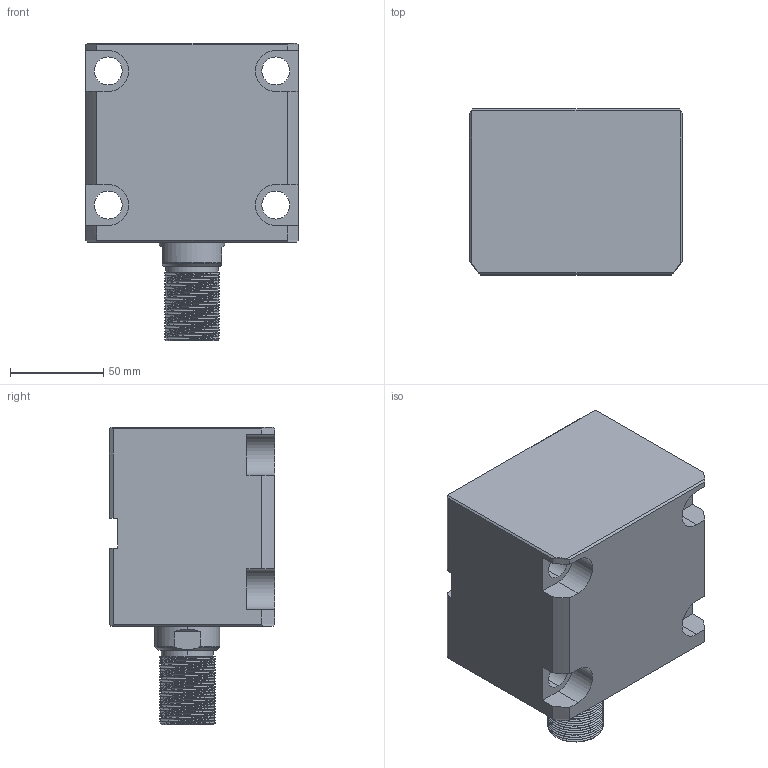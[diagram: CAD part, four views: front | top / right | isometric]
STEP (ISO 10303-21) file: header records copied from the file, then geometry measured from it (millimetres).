
FILE_DESCRIPTION (( 'STEP AP214' ), '1' );
FILE_NAME ('chtb-lam63x40w_asm.STEP', '2018-05-22T03:36:36', ( 'Windows' ), ( 'Microsoft' ), 'SwSTEP 2.0', 'SolidWorks 2015', '' );
FILE_SCHEMA (( 'AUTOMOTIVE_DESIGN' ));
Length unit declared in the file: millimetre
Products named in the file (4): CHTB-LAM63X40NBT; CHTB63X40WHSG; CHTB-63QG; chtb-lam63x40w_asm
Assembly tree (3 placements, depth 2):
  chtb-lam63x40w_asm
    CHTB-63QG
    CHTB63X40WHSG
    CHTB-LAM63X40NBT
Bounding box: 114 x 89 x 160 mm (x, y, z)
Volume: 946990.5 mm3; surface area: 143674.5 mm2
Topology: 3 solids, 3 shells, 229 faces, 681 edges, 463 vertices
Faces by surface type: cylinder 145, plane 54, bspline 15, cone 9, torus 6
Entity records: 23331 total; most frequent: CARTESIAN_POINT 17747, ORIENTED_EDGE 1354, DIRECTION 909, EDGE_CURVE 677, VERTEX_POINT 463, AXIS2_PLACEMENT_3D 330, EDGE_LOOP 252, VECTOR 249
